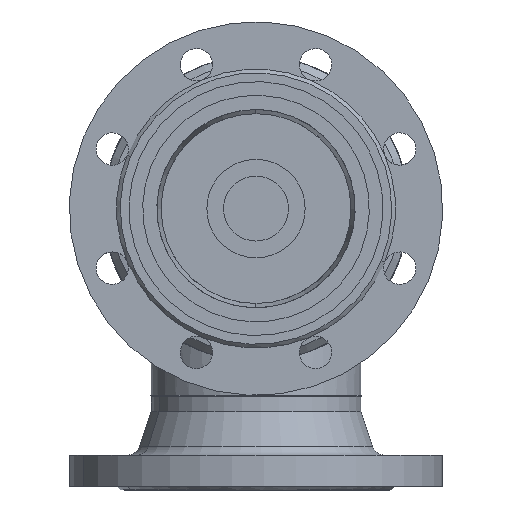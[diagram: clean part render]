
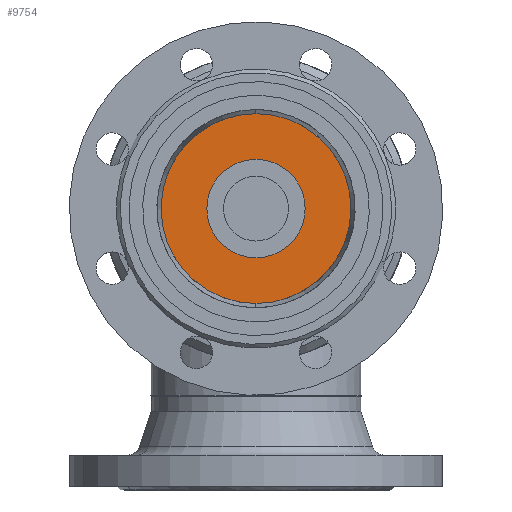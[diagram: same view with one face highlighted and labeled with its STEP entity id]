
A CAD part, front view. The second image highlights one B-rep face of the part: STEP entity #9754.
In plain terms, the highlighted planar face has unit normal (0, -1, 0) as drawn and (0, 0, 1) by its records, which use the part's own axes.
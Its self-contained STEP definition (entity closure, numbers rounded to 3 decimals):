
#1457 = VERTEX_POINT ( 'NONE', #4448 ) ;
#1570 = EDGE_CURVE ( 'NONE', #6531, #6746, #4633, .T. ) ;
#1893 = ORIENTED_EDGE ( 'NONE', *, *, #1570, .T. ) ;
#4448 = CARTESIAN_POINT ( 'NONE',  ( 39.5, 0., 16. ) ) ;
#4633 = CIRCLE ( 'NONE', #4634, 85. ) ;
#4634 = AXIS2_PLACEMENT_3D ( 'NONE', #4635, #4636, #4639 ) ;
#4635 = CARTESIAN_POINT ( 'NONE',  ( 0., 0., 16. ) ) ;
#4636 = DIRECTION ( 'NONE',  ( 0., 0., 1. ) ) ;
#4639 = DIRECTION ( 'NONE',  ( 1., 0., 0. ) ) ;
#5077 = CARTESIAN_POINT ( 'NONE',  ( -85., 0., 16. ) ) ;
#5538 = CARTESIAN_POINT ( 'NONE',  ( 85., 0., 16. ) ) ;
#5900 = CIRCLE ( 'NONE', #5901, 85. ) ;
#5901 = AXIS2_PLACEMENT_3D ( 'NONE', #5902, #5907, #5908 ) ;
#5902 = CARTESIAN_POINT ( 'NONE',  ( 0., 0., 16. ) ) ;
#5907 = DIRECTION ( 'NONE',  ( 0., 0., 1. ) ) ;
#5908 = DIRECTION ( 'NONE',  ( 1., 0., 0. ) ) ;
#6252 = CIRCLE ( 'NONE', #6253, 39.5 ) ;
#6253 = AXIS2_PLACEMENT_3D ( 'NONE', #6254, #6255, #6256 ) ;
#6254 = CARTESIAN_POINT ( 'NONE',  ( 0., 0., 16. ) ) ;
#6255 = DIRECTION ( 'NONE',  ( 0., 0., 1. ) ) ;
#6256 = DIRECTION ( 'NONE',  ( 1., 0., 0. ) ) ;
#6531 = VERTEX_POINT ( 'NONE', #5077 ) ;
#6746 = VERTEX_POINT ( 'NONE', #5538 ) ;
#6819 = ORIENTED_EDGE ( 'NONE', *, *, #9663, .F. ) ;
#6968 = EDGE_CURVE ( 'NONE', #6746, #6531, #5900, .T. ) ;
#7337 = EDGE_CURVE ( 'NONE', #9449, #1457, #6252, .T. ) ;
#7701 = ORIENTED_EDGE ( 'NONE', *, *, #7337, .F. ) ;
#8360 = CARTESIAN_POINT ( 'NONE',  ( -39.5, 0., 16. ) ) ;
#8372 = EDGE_LOOP ( 'NONE', ( #7701, #6819 ) ) ;
#8533 = CIRCLE ( 'NONE', #8534, 39.5 ) ;
#8534 = AXIS2_PLACEMENT_3D ( 'NONE', #8535, #8538, #8539 ) ;
#8535 = CARTESIAN_POINT ( 'NONE',  ( 0., 0., 16. ) ) ;
#8538 = DIRECTION ( 'NONE',  ( 0., 0., 1. ) ) ;
#8539 = DIRECTION ( 'NONE',  ( 1., 0., 0. ) ) ;
#8589 = FACE_OUTER_BOUND ( 'NONE', #9523, .T. ) ;
#8590 = FACE_BOUND ( 'NONE', #8372, .T. ) ;
#8591 = PLANE ( 'NONE',  #8592 ) ;
#8592 = AXIS2_PLACEMENT_3D ( 'NONE', #8593, #8594, #8595 ) ;
#8593 = CARTESIAN_POINT ( 'NONE',  ( 0., 0., 16. ) ) ;
#8594 = DIRECTION ( 'NONE',  ( 0., 0., 1. ) ) ;
#8595 = DIRECTION ( 'NONE',  ( 1., 0., 0. ) ) ;
#8613 = ORIENTED_EDGE ( 'NONE', *, *, #6968, .T. ) ;
#9449 = VERTEX_POINT ( 'NONE', #8360 ) ;
#9523 = EDGE_LOOP ( 'NONE', ( #1893, #8613 ) ) ;
#9663 = EDGE_CURVE ( 'NONE', #1457, #9449, #8533, .T. ) ;
#9754 = ADVANCED_FACE ( 'NONE', ( #8589, #8590 ), #8591, .T. ) ;
